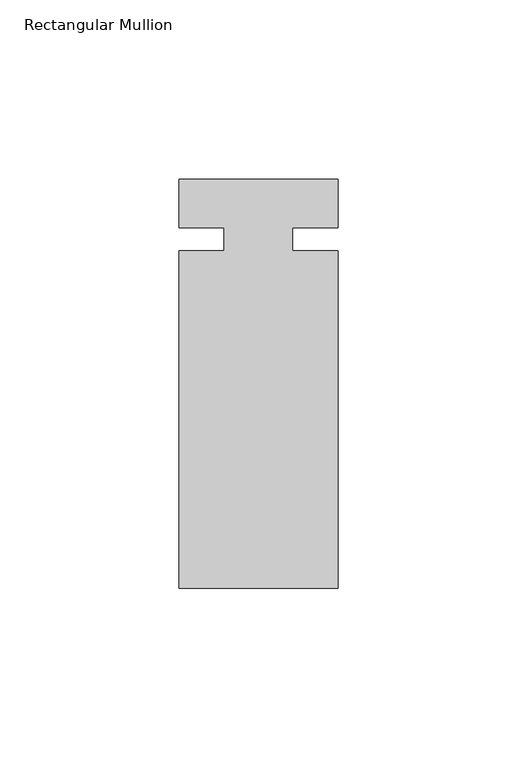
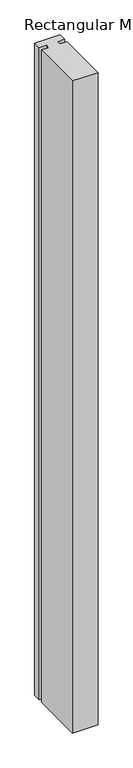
"""IFC4 building model written with IfcOpenShell, lengths in millimetres: member geometry, Rectangular Mullion : Kawneer-TRIFAB_VG_450_BACK_SB_Vertical."""

from ifc_helpers import new_model, si_unit, frame, origin, place, context, project, spatial, polyline, outline, extrude, source, transform, mapped, element, save


def rectangular_mullion_58844fd5(model_context):
    return source(origin(), model_context, "Body", "SweptSolid", [
        extrude(outline(polyline([(22.225, 16.8532346), (22.225, 3.175), (9.5232296, 3.175), (9.5232296, -3.175), (22.225, -3.175), (22.225, -97.4467654), (-22.225, -97.4467654), (-22.225, -3.175), (-9.525, -3.175), (-9.525, 3.175), (-22.225, 3.175), (-22.225, 16.8532346), (22.225, 16.8532346)])), frame((0.0, 0.0, -1201.3094027), z_axis=(0.0, 0.0, 1.0), x_axis=(1.0, 0.0, 0.0)), (0.0, 0.0, 1.0), 1201.3094027),
    ])


if __name__ == "__main__":
    model = new_model("IFC4")
    model_context = context("Model", 3, world=origin())
    ifc_project = project(units=[si_unit("LENGTHUNIT", "METRE", prefix="MILLI")], contexts=[model_context])
    site = spatial("IfcSite", under=ifc_project)
    building = spatial("IfcBuilding", under=site)
    placement = place(None, origin())
    rectangular_mullion_shape = rectangular_mullion_58844fd5(model_context)
    element("IfcMember", 1, ObjectType="Rectangular Mullion : Kawneer-TRIFAB_VG_450_BACK_SB_Vertical", at=placement, inside=building, context=model_context, shape_type="MappedRepresentation", body=[
        mapped(rectangular_mullion_shape, transform((0.0, 0.0, 0.0), x_axis=(1.0, 0.0, 0.0), y_axis=(0.0, 1.0, 0.0), z_axis=(0.0, 0.0, 1.0))),
    ])
    save(model, "model.ifc")
